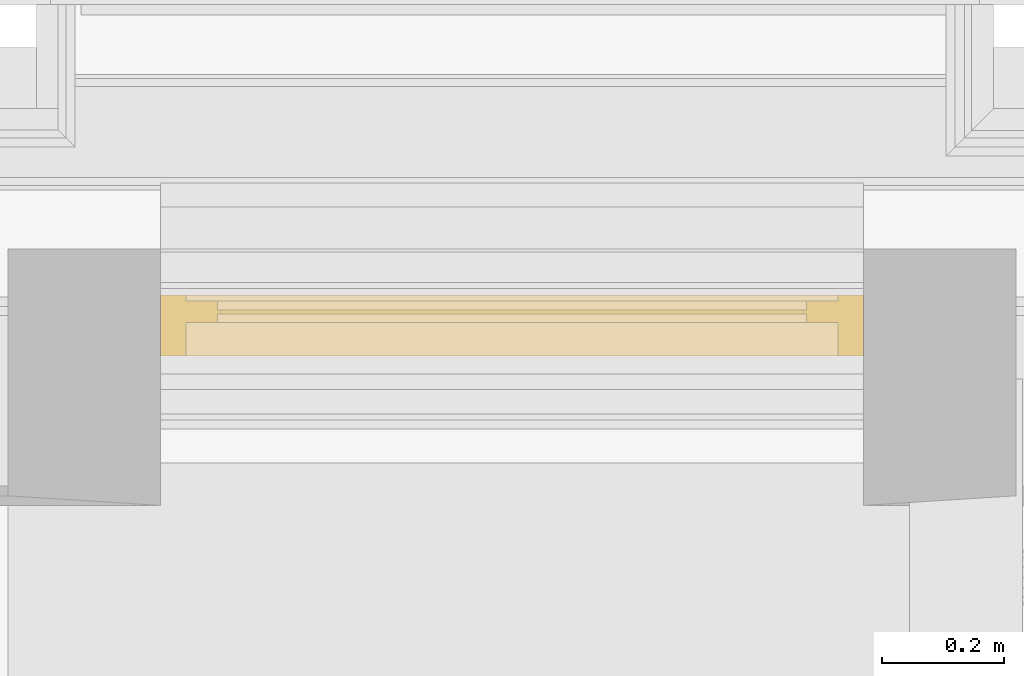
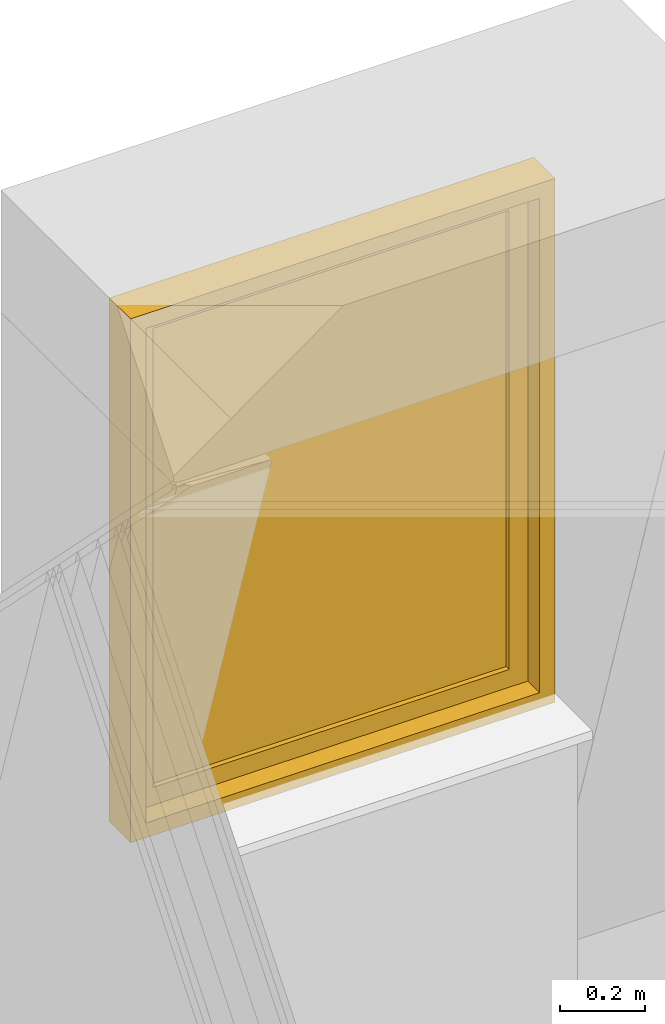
# One storey, part 119 of 169: 1 window.
"""IFC2X3 building model written with IfcOpenShell, lengths in metres."""

from ifc_helpers import new_model, entity, si_unit, converted_unit, derived_unit, money_unit, direction, frame, origin_with_axes, place, context, subcontext, project, spatial, faceted_brep, material, type_object, element, save


model = new_model("IFC2X3")

# Units and contexts
model_context = context("Model", 3, precision=1e-05, world=origin_with_axes(), true_north=direction((0.0, 1.0)))
body_context = subcontext(model_context, "Body", "Model", "MODEL_VIEW", scale=1.0)
ifc_project = project(units=[si_unit("LENGTHUNIT", "METRE"), si_unit("AREAUNIT", "SQUARE_METRE"), si_unit("VOLUMEUNIT", "CUBIC_METRE"), si_unit("ABSORBEDDOSEUNIT", "GRAY"), si_unit("AMOUNTOFSUBSTANCEUNIT", "MOLE"), si_unit("DOSEEQUIVALENTUNIT", "SIEVERT"), si_unit("ELECTRICCAPACITANCEUNIT", "FARAD"), si_unit("ELECTRICCHARGEUNIT", "COULOMB"), si_unit("ELECTRICCONDUCTANCEUNIT", "SIEMENS"), si_unit("ELECTRICCURRENTUNIT", "AMPERE"), si_unit("ELECTRICRESISTANCEUNIT", "OHM"), si_unit("ELECTRICVOLTAGEUNIT", "VOLT"), si_unit("ENERGYUNIT", "JOULE"), si_unit("FORCEUNIT", "NEWTON"), si_unit("FREQUENCYUNIT", "HERTZ"), si_unit("ILLUMINANCEUNIT", "LUX"), si_unit("INDUCTANCEUNIT", "HENRY"), si_unit("LUMINOUSFLUXUNIT", "LUMEN"), si_unit("LUMINOUSINTENSITYUNIT", "CANDELA"), si_unit("MAGNETICFLUXDENSITYUNIT", "TESLA"), si_unit("MAGNETICFLUXUNIT", "WEBER"), si_unit("MASSUNIT", "GRAM"), converted_unit("PLANEANGLEUNIT", "degree", entity("IfcReal", 0.0174532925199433), si_unit("PLANEANGLEUNIT", "RADIAN"), dimensions=[0, 0, 0, 0, 0, 0, 0]), si_unit("POWERUNIT", "WATT"), si_unit("PRESSUREUNIT", "PASCAL"), si_unit("RADIOACTIVITYUNIT", "BECQUEREL"), si_unit("SOLIDANGLEUNIT", "STERADIAN"), si_unit("THERMODYNAMICTEMPERATUREUNIT", "KELVIN"), si_unit("TIMEUNIT", "SECOND"), derived_unit("ACCELERATIONUNIT", [(si_unit("LENGTHUNIT", "METRE"), 1), (si_unit("TIMEUNIT", "SECOND"), -2)]), derived_unit("ANGULARVELOCITYUNIT", [(converted_unit("PLANEANGLEUNIT", "degree", entity("IfcReal", 0.0174532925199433), si_unit("PLANEANGLEUNIT", "RADIAN"), dimensions=[0, 0, 0, 0, 0, 0, 0]), 1), (si_unit("TIMEUNIT", "SECOND"), -1)]), derived_unit("CURVATUREUNIT", [(converted_unit("PLANEANGLEUNIT", "degree", entity("IfcReal", 0.0174532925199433), si_unit("PLANEANGLEUNIT", "RADIAN"), dimensions=[0, 0, 0, 0, 0, 0, 0]), 1), (si_unit("LENGTHUNIT", "METRE"), -1)]), derived_unit("DYNAMICVISCOSITYUNIT", [(si_unit("PRESSUREUNIT", "PASCAL"), 1), (si_unit("TIMEUNIT", "SECOND"), 1)]), derived_unit("HEATFLUXDENSITYUNIT", [(si_unit("POWERUNIT", "WATT"), 1), (si_unit("LENGTHUNIT", "METRE"), -2)]), derived_unit("HEATINGVALUEUNIT", [(si_unit("ENERGYUNIT", "JOULE"), 1), (si_unit("MASSUNIT", "GRAM"), -1)]), derived_unit("INTEGERCOUNTRATEUNIT", [(si_unit("TIMEUNIT", "SECOND"), -1)]), derived_unit("IONCONCENTRATIONUNIT", [(si_unit("MASSUNIT", "GRAM"), 1), (si_unit("VOLUMEUNIT", "CUBIC_METRE"), -1)]), derived_unit("ISOTHERMALMOISTURECAPACITYUNIT", [(si_unit("VOLUMEUNIT", "CUBIC_METRE"), 1), (si_unit("MASSUNIT", "GRAM"), -1)]), derived_unit("KINEMATICVISCOSITYUNIT", [(si_unit("AREAUNIT", "SQUARE_METRE"), 1), (si_unit("TIMEUNIT", "SECOND"), -1)]), derived_unit("LINEARFORCEUNIT", [(si_unit("FORCEUNIT", "NEWTON"), 1), (si_unit("LENGTHUNIT", "METRE"), -1)]), derived_unit("LINEARMOMENTUNIT", [(si_unit("FORCEUNIT", "NEWTON"), 1), (si_unit("LENGTHUNIT", "METRE"), -1)]), derived_unit("LINEARSTIFFNESSUNIT", [(si_unit("FORCEUNIT", "NEWTON"), 1), (si_unit("LENGTHUNIT", "METRE"), -1)]), derived_unit("LINEARVELOCITYUNIT", [(si_unit("LENGTHUNIT", "METRE"), 1), (si_unit("TIMEUNIT", "SECOND"), -1)]), derived_unit("LUMINOUSINTENSITYDISTRIBUTIONUNIT", [(si_unit("LUMINOUSINTENSITYUNIT", "CANDELA"), 1), (si_unit("LUMINOUSFLUXUNIT", "LUMEN"), -1)]), derived_unit("MASSDENSITYUNIT", [(si_unit("MASSUNIT", "GRAM"), 1), (si_unit("VOLUMEUNIT", "CUBIC_METRE"), -1)]), derived_unit("MASSFLOWRATEUNIT", [(si_unit("MASSUNIT", "GRAM"), 1), (si_unit("TIMEUNIT", "SECOND"), -1)]), derived_unit("MASSPERLENGTHUNIT", [(si_unit("MASSUNIT", "GRAM"), 1), (si_unit("LENGTHUNIT", "METRE"), -1)]), derived_unit("MODULUSOFELASTICITYUNIT", [(si_unit("FORCEUNIT", "NEWTON"), 1), (si_unit("AREAUNIT", "SQUARE_METRE"), -1)]), derived_unit("MODULUSOFLINEARSUBGRADEREACTIONUNIT", [(si_unit("FORCEUNIT", "NEWTON"), 1), (si_unit("LENGTHUNIT", "METRE"), -2)]), derived_unit("MODULUSOFROTATIONALSUBGRADEREACTIONUNIT", [(si_unit("FORCEUNIT", "NEWTON"), 1), (si_unit("LENGTHUNIT", "METRE"), 1)]), derived_unit("MODULUSOFSUBGRADEREACTIONUNIT", [(si_unit("FORCEUNIT", "NEWTON"), 1), (si_unit("VOLUMEUNIT", "CUBIC_METRE"), -1)]), derived_unit("MOISTUREDIFFUSIVITYUNIT", [(si_unit("VOLUMEUNIT", "CUBIC_METRE"), 1), (si_unit("TIMEUNIT", "SECOND"), -1)]), derived_unit("MOLECULARWEIGHTUNIT", [(si_unit("MASSUNIT", "GRAM"), 1), (si_unit("AMOUNTOFSUBSTANCEUNIT", "MOLE"), -1)]), derived_unit("PLANARFORCEUNIT", [(si_unit("FORCEUNIT", "NEWTON"), 1), (si_unit("LENGTHUNIT", "METRE"), -2)]), derived_unit("ROTATIONALFREQUENCYUNIT", [(si_unit("TIMEUNIT", "SECOND"), -1)]), derived_unit("ROTATIONALMASSUNIT", [(si_unit("MASSUNIT", "GRAM"), 1), (si_unit("LENGTHUNIT", "METRE"), 2)]), derived_unit("ROTATIONALSTIFFNESSUNIT", [(si_unit("FORCEUNIT", "NEWTON"), 1), (si_unit("LENGTHUNIT", "METRE"), 1), (converted_unit("PLANEANGLEUNIT", "degree", entity("IfcReal", 0.0174532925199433), si_unit("PLANEANGLEUNIT", "RADIAN"), dimensions=[0, 0, 0, 0, 0, 0, 0]), -1)]), derived_unit("SECTIONAREAINTEGRALUNIT", [(si_unit("LENGTHUNIT", "METRE"), 5)]), derived_unit("SECTIONMODULUSUNIT", [(si_unit("LENGTHUNIT", "METRE"), 3)]), derived_unit("SHEARMODULUSUNIT", [(si_unit("FORCEUNIT", "NEWTON"), 1), (si_unit("AREAUNIT", "SQUARE_METRE"), -1)]), derived_unit("SOUNDPOWERUNIT", [(si_unit("ENERGYUNIT", "JOULE"), 1), (si_unit("TIMEUNIT", "SECOND"), -1)]), derived_unit("SPECIFICHEATCAPACITYUNIT", [(si_unit("FORCEUNIT", "NEWTON"), 1), (si_unit("MASSUNIT", "GRAM"), -1), (si_unit("THERMODYNAMICTEMPERATUREUNIT", "KELVIN"), -1)]), derived_unit("TEMPERATUREGRADIENTUNIT", [(si_unit("THERMODYNAMICTEMPERATUREUNIT", "KELVIN"), 1), (si_unit("LENGTHUNIT", "METRE"), -1)]), derived_unit("THERMALADMITTANCEUNIT", [(si_unit("POWERUNIT", "WATT"), 1), (si_unit("AREAUNIT", "SQUARE_METRE"), -1), (si_unit("THERMODYNAMICTEMPERATUREUNIT", "KELVIN"), -1)]), derived_unit("THERMALCONDUCTANCEUNIT", [(si_unit("POWERUNIT", "WATT"), 1), (si_unit("LENGTHUNIT", "METRE"), -1), (si_unit("THERMODYNAMICTEMPERATUREUNIT", "KELVIN"), -1)]), derived_unit("THERMALEXPANSIONCOEFFICIENTUNIT", [(si_unit("THERMODYNAMICTEMPERATUREUNIT", "KELVIN"), -1)]), derived_unit("THERMALRESISTANCEUNIT", [(si_unit("AREAUNIT", "SQUARE_METRE"), 1), (si_unit("POWERUNIT", "WATT"), -1)]), derived_unit("THERMALTRANSMITTANCEUNIT", [(si_unit("POWERUNIT", "WATT"), 1), (si_unit("AREAUNIT", "SQUARE_METRE"), -1), (si_unit("THERMODYNAMICTEMPERATUREUNIT", "KELVIN"), -1)]), derived_unit("TORQUEUNIT", [(si_unit("FORCEUNIT", "NEWTON"), 1), (si_unit("LENGTHUNIT", "METRE"), 1)]), derived_unit("VAPORPERMEABILITYUNIT", [(si_unit("MASSUNIT", "GRAM"), 1), (si_unit("TIMEUNIT", "SECOND"), -1)]), derived_unit("VOLUMETRICFLOWRATEUNIT", [(si_unit("VOLUMEUNIT", "CUBIC_METRE"), 1), (si_unit("TIMEUNIT", "SECOND"), -1)]), derived_unit("WARPINGCONSTANTUNIT", [(si_unit("LENGTHUNIT", "METRE"), 6)]), derived_unit("WARPINGMOMENTUNIT", [(si_unit("FORCEUNIT", "NEWTON"), 1), (si_unit("LENGTHUNIT", "METRE"), 2)]), money_unit("GBP")], contexts=[model_context])

# Site, building, storey, space
site_placement = place(None, origin_with_axes())
site = spatial("IfcSite", under=ifc_project, at=site_placement, Name="Site", CompositionType="ELEMENT")
building_placement = place(site_placement, origin_with_axes())
building = spatial("IfcBuilding", under=site, at=building_placement, Name="Building01", CompositionType="ELEMENT")
storey_placement = place(building_placement, frame((0.0, 0.0, 5.15), z_axis=(0.0, 0.0, 1.0), x_axis=(1.0, 0.0, 0.0)))
storey = spatial("IfcBuildingStorey", under=building, at=storey_placement, Name="1F", CompositionType="ELEMENT", Elevation=5.15)
space_placement = place(storey_placement, frame((16.03844, 8.82, 9.86), z_axis=(0.0, 0.0, 1.0), x_axis=(0.0, -1.0, 0.0)))
space = spatial("IfcSpace", under=storey, at=space_placement, Name="23", CompositionType="ELEMENT", InteriorOrExteriorSpace="NOTDEFINED")

# Window
ifc_material = material(Name="A_BSUK_Windows")
window_style = type_object("IfcWindowStyle", Name="A-Awning", ConstructionType="NOTDEFINED", OperationType="USERDEFINED", ParameterTakesPrecedence=False, Sizeable=False)
window_placement = place(storey_placement, frame((14.020024, 14.350061, 10.83), z_axis=(0.0, 0.0, 1.0), x_axis=(-1.0, 0.0, 0.0)))
element("IfcWindow", 1, at=window_placement, inside=space, type_object=window_style, material=ifc_material, Name="4.19", ObjectType="A-Awning", OverallHeight=1.50000000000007, OverallWidth=1.15000000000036, context=body_context, shape_type="Brep", body=[
    faceted_brep([(-1.108, 0.0254, 0.042), (-0.042, 0.0254, 0.042), (-0.042, 0.1254, 0.042), (-1.108, 0.1254, 0.042), (-1.108, 0.0254, 1.458), (-1.108, 0.1254, 1.458), (-0.042, 0.0254, 1.458), (-0.042, 0.1254, 1.458), (0.0, 0.0254, 0.0), (0.0, 0.0254, 1.5), (-1.15, 0.0254, 1.5), (-1.15, 0.0254, 0.0), (0.0, 0.1254, 1.5), (-1.15, 0.1254, 1.5), (-1.15, 0.1254, 0.0), (0.0, 0.1254, 0.0)], [[[0, 1, 2, 3]], [[4, 0, 3, 5]], [[6, 4, 5, 7]], [[8, 9, 10, 11], [4, 6, 1, 0]], [[1, 6, 7, 2]], [[12, 13, 10, 9]], [[14, 15, 8, 11]], [[13, 14, 11, 10]], [[13, 12, 15, 14], [2, 7, 5, 3]], [[15, 12, 9, 8]]]),
    faceted_brep([(-1.0572, 0.0354, 0.0928), (-0.0928, 0.0354, 0.0928), (-0.0928, 0.0704, 0.0928), (-1.0572, 0.0704, 0.0928), (-1.0572, 0.0354, 1.4072), (-1.0572, 0.0704, 1.4072), (-0.0928, 0.0354, 1.4072), (-0.0928, 0.0704, 1.4072), (-1.108, 0.0704, 1.458), (-0.042, 0.0704, 1.458), (-0.042, 0.0704, 0.042), (-1.108, 0.0704, 0.042), (-1.108, 0.0354, 1.458), (-0.042, 0.0354, 1.458), (-0.042, 0.0354, 0.042), (-1.108, 0.0354, 0.042)], [[[0, 1, 2, 3]], [[4, 0, 3, 5]], [[6, 4, 5, 7]], [[8, 9, 10, 11], [2, 7, 5, 3]], [[9, 8, 12, 13]], [[10, 9, 13, 14]], [[11, 10, 14, 15]], [[8, 11, 15, 12]], [[14, 13, 12, 15], [4, 6, 1, 0]], [[1, 6, 7, 2]]]),
    faceted_brep([(-0.0928, 0.049725, 0.0928), (-0.0928, 0.056075, 0.0928), (-0.0928, 0.056075, 1.4072), (-0.0928, 0.049725, 1.4072), (-1.0572, 0.049725, 1.4072), (-1.0572, 0.056075, 1.4072), (-1.0572, 0.056075, 0.0928), (-1.0572, 0.049725, 0.0928)], [[[0, 1, 2, 3]], [[4, 5, 6, 7]], [[3, 2, 5, 4]], [[3, 4, 7, 0]], [[7, 6, 1, 0]], [[1, 6, 5, 2]]]),
])

save(model, "model.ifc")
